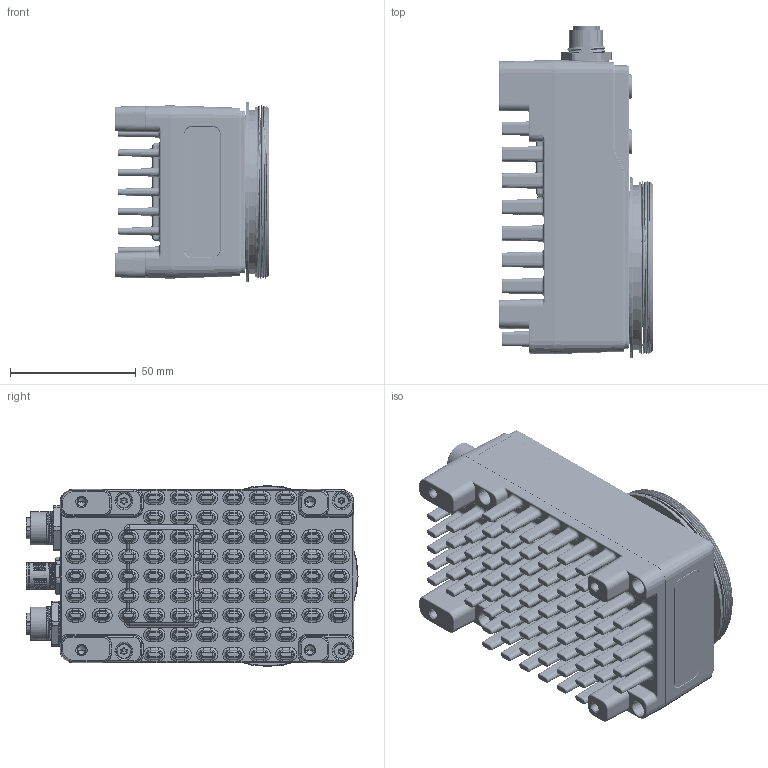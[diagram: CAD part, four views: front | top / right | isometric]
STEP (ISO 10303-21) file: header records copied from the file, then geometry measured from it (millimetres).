
FILE_DESCRIPTION((''),'2;1');
FILE_NAME('DH3-3119-6059_1_1','2023-05-31T17:38:32',('309191'),(''),'CREO PARAMETRIC BY PTC INC, 2020184','CREO PARAMETRIC BY PTC INC, 2020184','');
FILE_SCHEMA(('CONFIG_CONTROL_DESIGN','SHAPE_APPEARANCE_LAYERS_GROUPS'));
Products named in the file (1): DH3-3119-6059_1_1
Bounding box: 61.7 x 132.2 x 72 mm (x, y, z)
Volume: 302894.6 mm3; surface area: 77789.4 mm2
Topology: 2 solids, 14 shells, 3320 faces, 8880 edges, 5656 vertices
Faces by surface type: cylinder 1079, plane 907, torus 512, cone 412, bspline 340, sphere 70
Entity records: 156303 total; most frequent: CARTESIAN_POINT 47785, ORIENTED_EDGE 17572, DIRECTION 17228, PRESENTATION_STYLE_ASSIGNMENT 8791, STYLED_ITEM 8791, CURVE_STYLE 8788, EDGE_CURVE 8788, AXIS2_PLACEMENT_3D 6863
